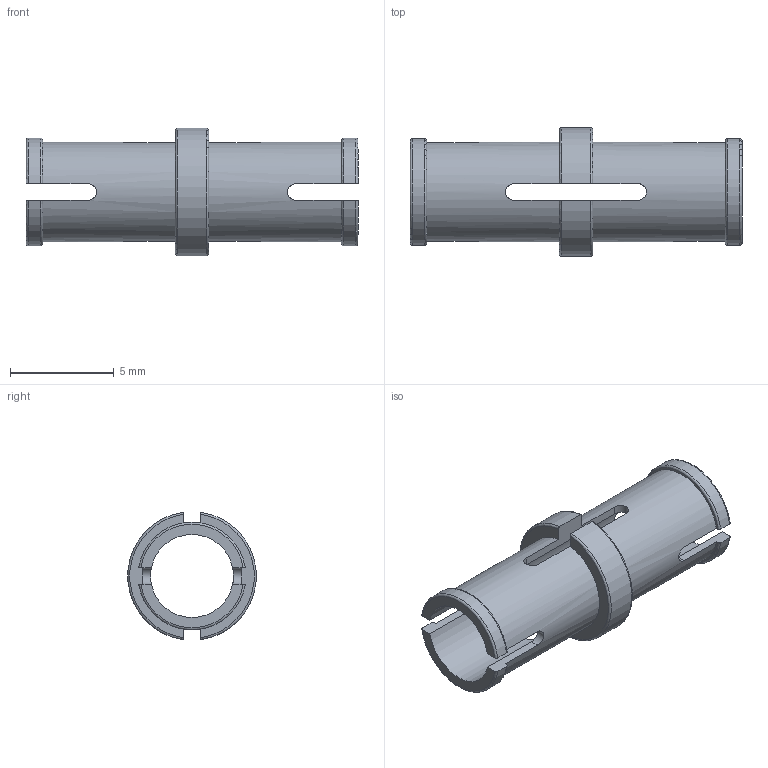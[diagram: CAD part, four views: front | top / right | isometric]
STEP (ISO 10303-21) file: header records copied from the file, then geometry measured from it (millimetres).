
FILE_DESCRIPTION(/* description */ ('Unknown'),/* implementation_level */ '2;1');
FILE_NAME(/* name */ 'Black_4121715_MCM',/* time_stamp */ '2025-07-21T23:45:24+02:00',/* author */ ('Unknown'),/* organization */ ('Unknown'),/* preprocessor_version */ 'ST-DEVELOPER v19.4',/* originating_system */ 'Solid Edge',/* authorisation */ 'Unknown');
FILE_SCHEMA (('AUTOMOTIVE_DESIGN {1 0 10303 214 3 1 1}'));
Length unit declared in the file: millimetre
Products named in the file (1): Black_4121715_MCM
Bounding box: 16 x 6.18 x 6.15 mm (x, y, z)
Volume: 101.8 mm3; surface area: 477.1 mm2
Topology: 1 solids, 1 shells, 53 faces, 161 edges, 106 vertices
Faces by surface type: plane 24, cylinder 17, torus 12
Full cylindrical faces by diameter (mm): 4 x1, 4.8 x2
Entity records: 1864 total; most frequent: CARTESIAN_POINT 450, ORIENTED_EDGE 312, DIRECTION 260, EDGE_CURVE 156, VERTEX_POINT 104, AXIS2_PLACEMENT_3D 90, LINE 80, VECTOR 80
